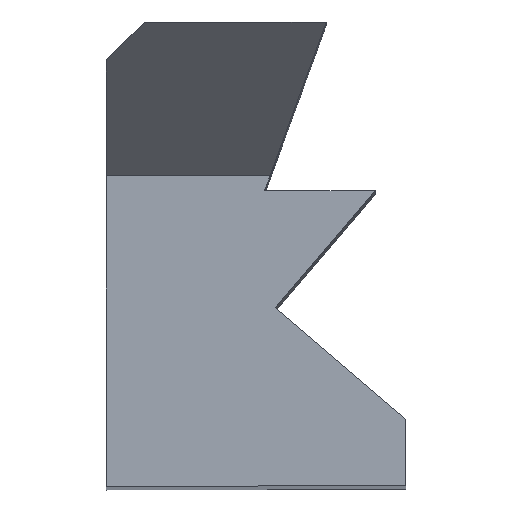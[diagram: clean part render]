
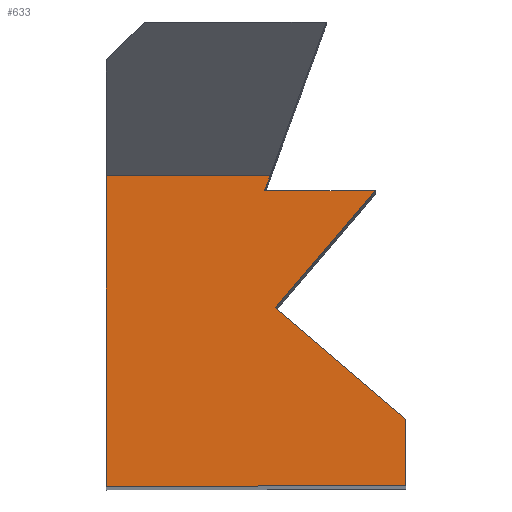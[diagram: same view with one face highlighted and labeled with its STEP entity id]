
A CAD part, front view. The second image highlights one B-rep face of the part: STEP entity #633.
In plain terms, the highlighted planar face has unit normal (0, -1, 0.002).
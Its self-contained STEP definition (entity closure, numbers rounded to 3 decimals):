
#252=CARTESIAN_POINT('',(-8.662,148.457,35.485));
#253=VERTEX_POINT('',#252);
#261=CARTESIAN_POINT('',(-11.591,148.457,35.485));
#262=VERTEX_POINT('',#261);
#269=CARTESIAN_POINT('',(-8.662,148.457,35.485));
#270=DIRECTION('',(-1.,-0.,0.));
#271=VECTOR('',#270,2.928);
#272=LINE('',#269,#271);
#273=EDGE_CURVE('',#253,#262,#272,.T.);
#362=CARTESIAN_POINT('',(-11.446,148.457,35.88));
#363=VERTEX_POINT('',#362);
#370=CARTESIAN_POINT('',(-11.446,148.457,35.88));
#371=DIRECTION('',(-0.344,-0.001,-0.939));
#372=VECTOR('',#371,0.421);
#373=LINE('',#370,#372);
#374=EDGE_CURVE('',#363,#262,#373,.T.);
#423=CARTESIAN_POINT('',(-11.305,148.452,32.391));
#424=VERTEX_POINT('',#423);
#425=CARTESIAN_POINT('',(-11.305,148.452,32.391));
#426=DIRECTION('',(0.65,0.001,0.76));
#427=VECTOR('',#426,4.069);
#428=LINE('',#425,#427);
#429=EDGE_CURVE('',#424,#253,#428,.T.);
#464=CARTESIAN_POINT('',(-7.863,148.447,29.451));
#465=VERTEX_POINT('',#464);
#466=CARTESIAN_POINT('',(-11.305,148.452,32.391));
#467=DIRECTION('',(0.76,-0.001,-0.65));
#468=VECTOR('',#467,4.527);
#469=LINE('',#466,#468);
#470=EDGE_CURVE('',#424,#465,#469,.T.);
#495=CARTESIAN_POINT('',(-7.863,148.444,27.696));
#496=VERTEX_POINT('',#495);
#497=CARTESIAN_POINT('',(-7.863,148.447,29.451));
#498=DIRECTION('',(0.,-0.002,-1.));
#499=VECTOR('',#498,1.755);
#500=LINE('',#497,#499);
#501=EDGE_CURVE('',#465,#496,#500,.T.);
#526=CARTESIAN_POINT('',(-15.767,148.444,27.672));
#527=VERTEX_POINT('',#526);
#528=CARTESIAN_POINT('',(-7.863,148.444,27.696));
#529=DIRECTION('',(-1.,0.,-0.003));
#530=VECTOR('',#529,7.903);
#531=LINE('',#528,#530);
#532=EDGE_CURVE('',#496,#527,#531,.T.);
#596=CARTESIAN_POINT('',(-15.767,148.457,35.88));
#597=VERTEX_POINT('',#596);
#598=CARTESIAN_POINT('',(-15.767,148.444,27.672));
#599=DIRECTION('',(0.,0.002,1.));
#600=VECTOR('',#599,8.208);
#601=LINE('',#598,#600);
#602=EDGE_CURVE('',#527,#597,#601,.T.);
#613=CARTESIAN_POINT('',(0.,148.444,27.785));
#614=DIRECTION('',(0.,1.,-0.002));
#615=DIRECTION('',(0.,0.002,1.));
#616=AXIS2_PLACEMENT_3D('',#613,#614,#615);
#617=PLANE('',#616);
#618=ORIENTED_EDGE('',*,*,#374,.F.);
#619=CARTESIAN_POINT('',(-11.446,148.457,35.88));
#620=DIRECTION('',(-1.,-0.,0.));
#621=VECTOR('',#620,4.321);
#622=LINE('',#619,#621);
#623=EDGE_CURVE('',#363,#597,#622,.T.);
#624=ORIENTED_EDGE('',*,*,#623,.T.);
#625=ORIENTED_EDGE('',*,*,#602,.F.);
#626=ORIENTED_EDGE('',*,*,#532,.F.);
#627=ORIENTED_EDGE('',*,*,#501,.F.);
#628=ORIENTED_EDGE('',*,*,#470,.F.);
#629=ORIENTED_EDGE('',*,*,#429,.T.);
#630=ORIENTED_EDGE('',*,*,#273,.T.);
#631=EDGE_LOOP('',(#618,#624,#625,#626,#627,#628,#629,#630));
#632=FACE_BOUND('',#631,.T.);
#633=ADVANCED_FACE('',(#632),#617,.F.);
